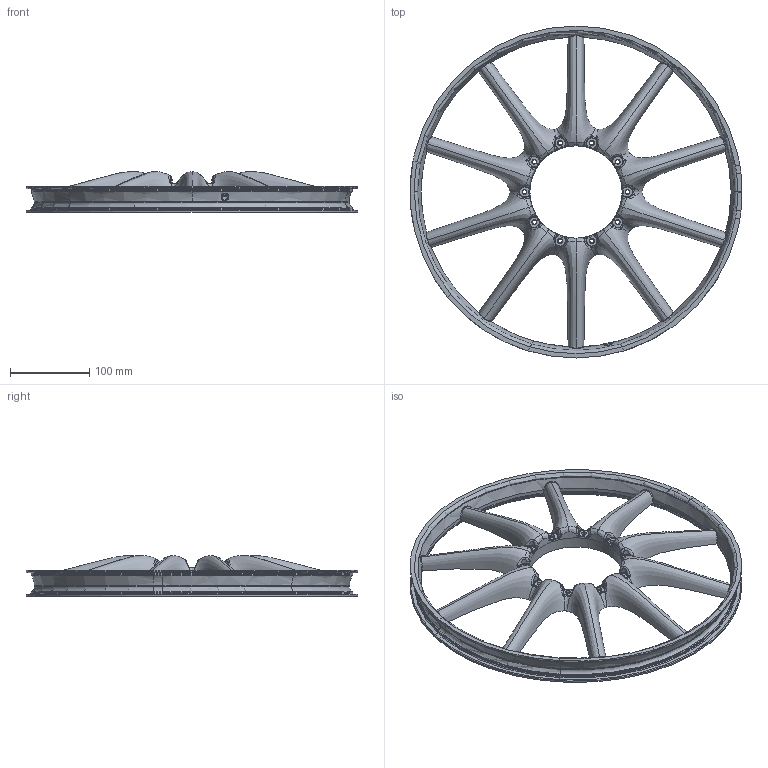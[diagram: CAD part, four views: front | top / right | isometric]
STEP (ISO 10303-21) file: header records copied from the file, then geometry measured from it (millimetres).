
FILE_DESCRIPTION (( 'STEP AP203' ), '1' );
FILE_NAME ('Alligt-CBW1-B.STEP', '2020-11-20T09:49:59', ( '' ), ( '' ), 'SwSTEP 2.0', 'SolidWorks 2020', '' );
FILE_SCHEMA (( 'CONFIG_CONTROL_DESIGN' ));
Products named in the file (1): Alligt-CBW1-B
Bounding box: 419 x 419 x 51.5 mm (x, y, z)
Volume: 453458.5 mm3; surface area: 298023.4 mm2
Topology: 1 solids, 1 shells, 1654 faces, 4329 edges, 2656 vertices
Faces by surface type: bspline 837, plane 414, cone 193, torus 135, cylinder 57, sphere 18
Entity records: 152215 total; most frequent: CARTESIAN_POINT 119543, ORIENTED_EDGE 8582, EDGE_CURVE 4291, DIRECTION 4275, B_SPLINE_CURVE_WITH_KNOTS 2718, VERTEX_POINT 2656, AXIS2_PLACEMENT_3D 1892, EDGE_LOOP 1715
